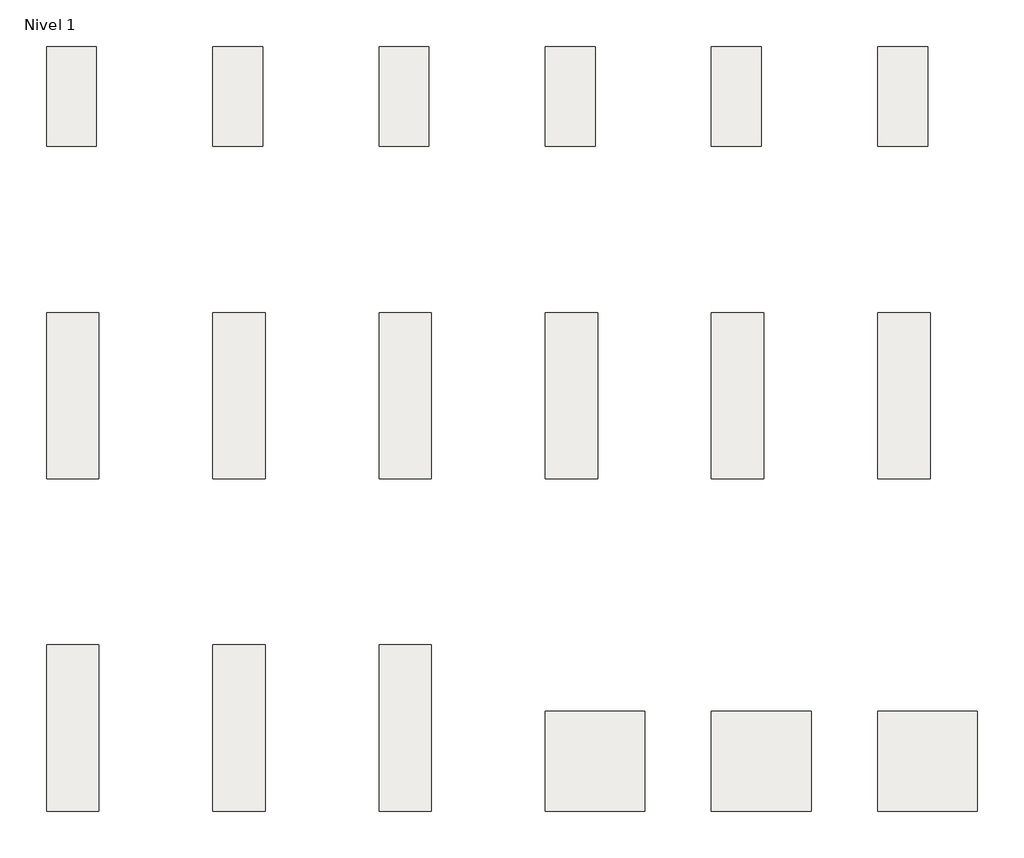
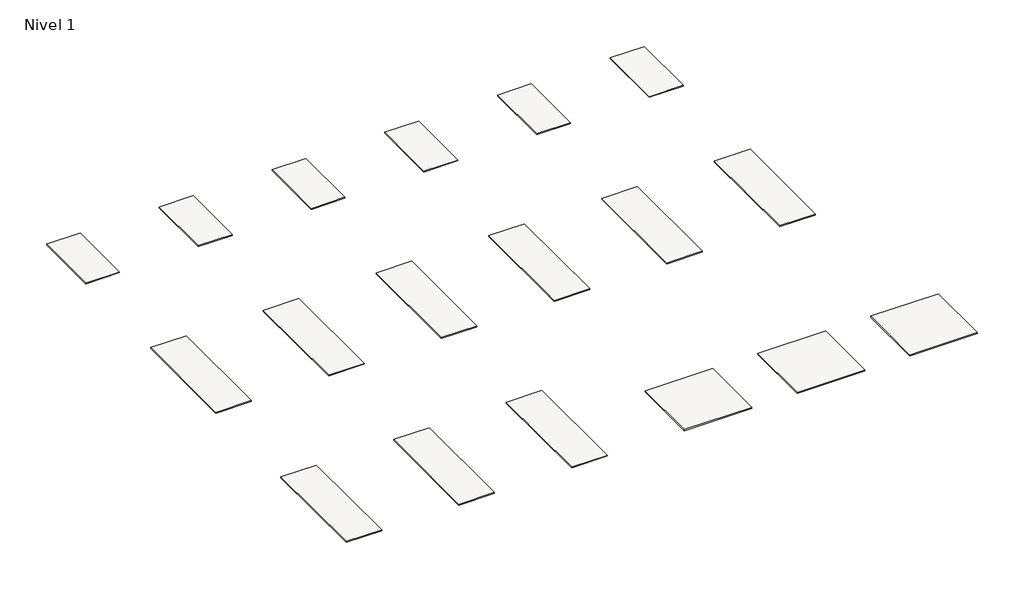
# One storey: 18 slabs.
"""IFC4 building model written with IfcOpenShell, lengths in millimetres."""

from ifc_helpers import new_model, si_unit, frame, origin, place, context, project, spatial, polyline, outline, extrude, element, save

model = new_model("IFC4")

# Units and contexts
model_context = context("Model", 3, world=origin())
ifc_project = project(units=[si_unit("LENGTHUNIT", "METRE", prefix="MILLI")], contexts=[model_context])

# Site, building, storey
site = spatial("IfcSite", under=ifc_project)
building = spatial("IfcBuilding", under=site)
storey = spatial("IfcBuildingStorey", under=building, Name="Nivel 1", Elevation=0.0)

# Slabs
placement = place(None, origin())
element("IfcSlab", 1, ObjectType="Wabi Concrete Gris 30X60", at=placement, inside=storey, context=model_context, shape_type="SweptSolid", body=[
    extrude(outline(polyline([(0.0, 600.0), (300.0, 600.0), (300.0, 0.0), (0.0, 0.0), (0.0, 600.0)])), frame((0.0, 0.0, -8.7), z_axis=(0.0, 0.0, 1.0), x_axis=(1.0, 0.0, 0.0)), (0.0, 0.0, 1.0), 8.7),
])
element("IfcSlab", 2, ObjectType="Wabi Concrete Blanco 30X60", at=placement, inside=storey, context=model_context, shape_type="SweptSolid", body=[
    extrude(outline(polyline([(1000.0, 600.0), (1300.0, 600.0), (1300.0, 0.0), (1000.0, 0.0), (1000.0, 600.0)])), frame((0.0, 0.0, -8.7), z_axis=(0.0, 0.0, 1.0), x_axis=(1.0, 0.0, 0.0)), (0.0, 0.0, 1.0), 8.7),
])
element("IfcSlab", 3, ObjectType="Wabi Concrete Beige 30X60", at=placement, inside=storey, context=model_context, shape_type="SweptSolid", body=[
    extrude(outline(polyline([(2000.0, 600.0), (2300.0, 600.0), (2300.0, 0.0), (2000.0, 0.0), (2000.0, 600.0)])), frame((0.0, 0.0, -8.7), z_axis=(0.0, 0.0, 1.0), x_axis=(1.0, 0.0, 0.0)), (0.0, 0.0, 1.0), 8.7),
])
element("IfcSlab", 4, ObjectType="Wabi Fabric Gris 30X60", at=placement, inside=storey, context=model_context, shape_type="SweptSolid", body=[
    extrude(outline(polyline([(3000.0, 600.0), (3300.0, 600.0), (3300.0, 0.0), (3000.0, 0.0), (3000.0, 600.0)])), frame((0.0, 0.0, -8.7), z_axis=(0.0, 0.0, 1.0), x_axis=(1.0, 0.0, 0.0)), (0.0, 0.0, 1.0), 8.7),
])
element("IfcSlab", 5, ObjectType="Wabi Fabric Blco. 30X60", at=placement, inside=storey, context=model_context, shape_type="SweptSolid", body=[
    extrude(outline(polyline([(4000.0, 600.0), (4300.0, 600.0), (4300.0, 0.0), (4000.0, 0.0), (4000.0, 600.0)])), frame((0.0, 0.0, -8.7), z_axis=(0.0, 0.0, 1.0), x_axis=(1.0, 0.0, 0.0)), (0.0, 0.0, 1.0), 8.7),
])
element("IfcSlab", 6, ObjectType="Wabi Fabric Beige 30X60", at=placement, inside=storey, context=model_context, shape_type="SweptSolid", body=[
    extrude(outline(polyline([(5000.0, 600.0), (5300.0, 600.0), (5300.0, 0.0), (5000.0, 0.0), (5000.0, 600.0)])), frame((0.0, 0.0, -8.7), z_axis=(0.0, 0.0, 1.0), x_axis=(1.0, 0.0, 0.0)), (0.0, 0.0, 1.0), 8.7),
])
element("IfcSlab", 7, ObjectType="Wabi Concrete Gri.31,5X100", at=placement, inside=storey, context=model_context, shape_type="SweptSolid", body=[
    extrude(outline(polyline([(0.0, -1000.0), (315.0, -1000.0), (315.0, -2000.0), (0.0, -2000.0), (0.0, -1000.0)])), frame((0.0, 0.0, -8.7), z_axis=(0.0, 0.0, 1.0), x_axis=(1.0, 0.0, 0.0)), (0.0, 0.0, 1.0), 8.7),
])
element("IfcSlab", 8, ObjectType="Wabi Concrete Blanco31,5X100", at=placement, inside=storey, context=model_context, shape_type="SweptSolid", body=[
    extrude(outline(polyline([(1000.0, -1000.0), (1315.0, -1000.0), (1315.0, -2000.0), (1000.0, -2000.0), (1000.0, -1000.0)])), frame((0.0, 0.0, -8.7), z_axis=(0.0, 0.0, 1.0), x_axis=(1.0, 0.0, 0.0)), (0.0, 0.0, 1.0), 8.7),
])
element("IfcSlab", 9, ObjectType="Wabi Concrete Beige31,5X100", at=placement, inside=storey, context=model_context, shape_type="SweptSolid", body=[
    extrude(outline(polyline([(2000.0, -1000.0), (2315.0, -1000.0), (2315.0, -2000.0), (2000.0, -2000.0), (2000.0, -1000.0)])), frame((0.0, 0.0, -8.7), z_axis=(0.0, 0.0, 1.0), x_axis=(1.0, 0.0, 0.0)), (0.0, 0.0, 1.0), 8.7),
])
element("IfcSlab", 10, ObjectType="Wabi Fabric Gris 31,5X100", at=placement, inside=storey, context=model_context, shape_type="SweptSolid", body=[
    extrude(outline(polyline([(3000.0, -1000.0), (3315.0, -1000.0), (3315.0, -2000.0), (3000.0, -2000.0), (3000.0, -1000.0)])), frame((0.0, 0.0, -8.7), z_axis=(0.0, 0.0, 1.0), x_axis=(1.0, 0.0, 0.0)), (0.0, 0.0, 1.0), 8.7),
])
element("IfcSlab", 11, ObjectType="Wabi Fabric Blco. 31,5X100", at=placement, inside=storey, context=model_context, shape_type="SweptSolid", body=[
    extrude(outline(polyline([(4000.0, -1000.0), (4315.0, -1000.0), (4315.0, -2000.0), (4000.0, -2000.0), (4000.0, -1000.0)])), frame((0.0, 0.0, -8.7), z_axis=(0.0, 0.0, 1.0), x_axis=(1.0, 0.0, 0.0)), (0.0, 0.0, 1.0), 8.7),
])
element("IfcSlab", 12, ObjectType="Wabi Fabric Beige 31,5X100", at=placement, inside=storey, context=model_context, shape_type="SweptSolid", body=[
    extrude(outline(polyline([(5000.0, -1000.0), (5315.0, -1000.0), (5315.0, -2000.0), (5000.0, -2000.0), (5000.0, -1000.0)])), frame((0.0, 0.0, -8.7), z_axis=(0.0, 0.0, 1.0), x_axis=(1.0, 0.0, 0.0)), (0.0, 0.0, 1.0), 8.7),
])
element("IfcSlab", 13, ObjectType="Wabi Wood Gris 31,5X100", at=placement, inside=storey, context=model_context, shape_type="SweptSolid", body=[
    extrude(outline(polyline([(0.0, -3000.0), (315.0, -3000.0), (315.0, -4000.0), (0.0, -4000.0), (0.0, -3000.0)])), frame((0.0, 0.0, -8.7), z_axis=(0.0, 0.0, 1.0), x_axis=(1.0, 0.0, 0.0)), (0.0, 0.0, 1.0), 8.7),
])
element("IfcSlab", 14, ObjectType="Wabi Wood Blanco 31,5X100", at=placement, inside=storey, context=model_context, shape_type="SweptSolid", body=[
    extrude(outline(polyline([(1000.0, -3000.0), (1315.0, -3000.0), (1315.0, -4000.0), (1000.0, -4000.0), (1000.0, -3000.0)])), frame((0.0, 0.0, -8.7), z_axis=(0.0, 0.0, 1.0), x_axis=(1.0, 0.0, 0.0)), (0.0, 0.0, 1.0), 8.7),
])
element("IfcSlab", 15, ObjectType="Wabi Wood Beige 31,5X100", at=placement, inside=storey, context=model_context, shape_type="SweptSolid", body=[
    extrude(outline(polyline([(2000.0, -3000.0), (2315.0, -3000.0), (2315.0, -4000.0), (2000.0, -4000.0), (2000.0, -3000.0)])), frame((0.0, 0.0, -8.7), z_axis=(0.0, 0.0, 1.0), x_axis=(1.0, 0.0, 0.0)), (0.0, 0.0, 1.0), 8.7),
])
element("IfcSlab", 16, ObjectType="Wabi Concrete Gris 60X60 Rec", at=placement, inside=storey, context=model_context, shape_type="SweptSolid", body=[
    extrude(outline(polyline([(3000.0, -3400.0), (3600.0, -3400.0), (3600.0, -4000.0), (3000.0, -4000.0), (3000.0, -3400.0)])), frame((0.0, 0.0, -10.0), z_axis=(0.0, 0.0, 1.0), x_axis=(1.0, 0.0, 0.0)), (0.0, 0.0, 1.0), 10.0),
])
element("IfcSlab", 17, ObjectType="Wabi Concrete Blanco 60X60 Rec.", at=placement, inside=storey, context=model_context, shape_type="SweptSolid", body=[
    extrude(outline(polyline([(4000.0, -3400.0), (4600.0, -3400.0), (4600.0, -4000.0), (4000.0, -4000.0), (4000.0, -3400.0)])), frame((0.0, 0.0, -10.0), z_axis=(0.0, 0.0, 1.0), x_axis=(1.0, 0.0, 0.0)), (0.0, 0.0, 1.0), 10.0),
])
element("IfcSlab", 18, ObjectType="Wabi Concrete Beige 60X60 Rec.", at=placement, inside=storey, context=model_context, shape_type="SweptSolid", body=[
    extrude(outline(polyline([(5000.0, -3400.0), (5600.0, -3400.0), (5600.0, -4000.0), (5000.0, -4000.0), (5000.0, -3400.0)])), frame((0.0, 0.0, -10.0), z_axis=(0.0, 0.0, 1.0), x_axis=(1.0, 0.0, 0.0)), (0.0, 0.0, 1.0), 10.0),
])

save(model, "model.ifc")
